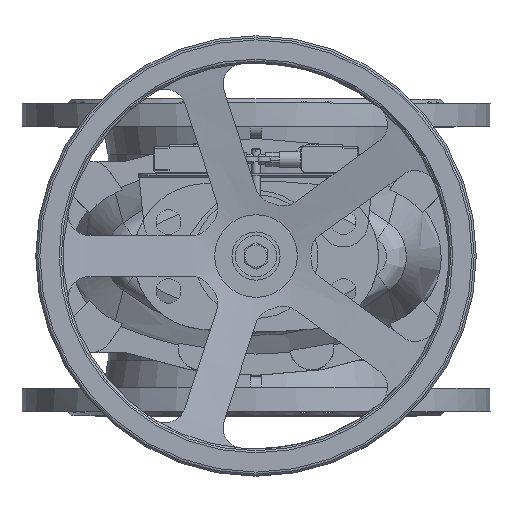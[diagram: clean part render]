
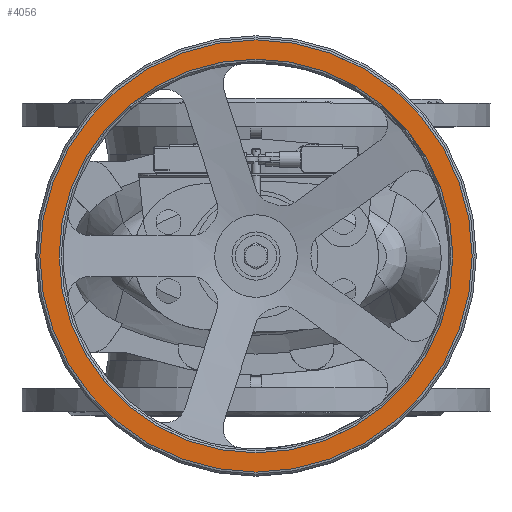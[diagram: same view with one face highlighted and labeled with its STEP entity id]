
A CAD part, top view. The second image highlights one B-rep face of the part: STEP entity #4056.
In plain terms, the highlighted planar face has unit normal (0, 0, 1).
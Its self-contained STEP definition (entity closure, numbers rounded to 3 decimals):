
#4056=ADVANCED_FACE('',(#8420,#8422),#8424,.T.);
#8420=FACE_BOUND('',#8421,.T.);
#8421=EDGE_LOOP('',(#11138));
#8422=FACE_BOUND('',#8423,.T.);
#8423=EDGE_LOOP('',(#11139));
#8424=PLANE('',#8425);
#8425=AXIS2_PLACEMENT_3D('',#8426,#8427,#8428);
#8426=CARTESIAN_POINT('',(0.,0.,652.));
#8427=DIRECTION('',(0.,0.,1.));
#8428=DIRECTION('',(0.,-1.,0.));
#11138=ORIENTED_EDGE('',*,*,#12488,.T.);
#11139=ORIENTED_EDGE('',*,*,#12485,.F.);
#12485=EDGE_CURVE('',#14571,#14571,#14572,.T.);
#12488=EDGE_CURVE('',#14577,#14577,#14578,.T.);
#14571=VERTEX_POINT('',#27362);
#14572=CIRCLE('',#27363,143.);
#14577=VERTEX_POINT('',#27377);
#14578=CIRCLE('',#27378,157.);
#27362=CARTESIAN_POINT('',(0.,-143.,652.));
#27363=AXIS2_PLACEMENT_3D('',#27364,#27365,#27366);
#27364=CARTESIAN_POINT('',(0.,0.,652.));
#27365=DIRECTION('',(0.,0.,1.));
#27366=DIRECTION('',(0.,-1.,0.));
#27377=CARTESIAN_POINT('',(0.,-157.,652.));
#27378=AXIS2_PLACEMENT_3D('',#27379,#27380,#27381);
#27379=CARTESIAN_POINT('',(0.,0.,652.));
#27380=DIRECTION('',(0.,0.,1.));
#27381=DIRECTION('',(0.,-1.,0.));
